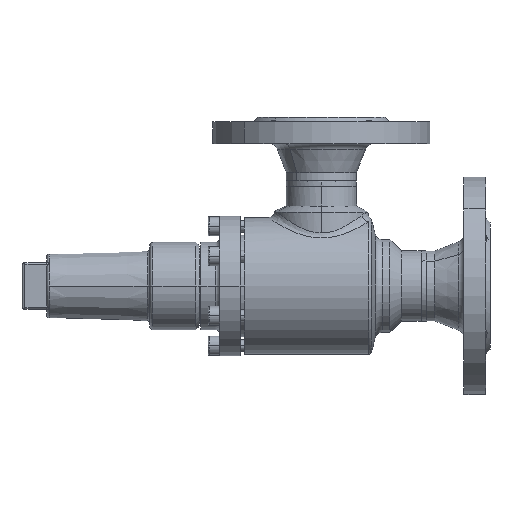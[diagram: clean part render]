
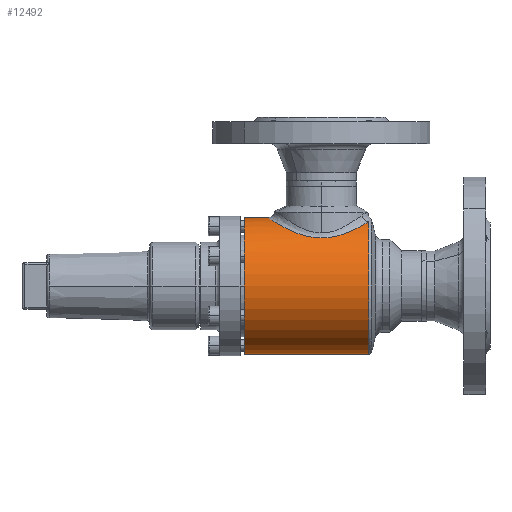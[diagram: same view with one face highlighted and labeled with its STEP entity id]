
A CAD part, left-side view. The second image highlights one B-rep face of the part: STEP entity #12492.
In plain terms, the highlighted cylindrical face has radius 47 mm (diameter 94 mm), a partial arc.
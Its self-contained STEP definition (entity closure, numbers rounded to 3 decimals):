
#16580 = EDGE_CURVE ( 'NONE', #18097, #5583, #12732, .T. ) ;
#536 = CARTESIAN_POINT ( 'NONE',  ( 0., -16., 47. ) ) ;
#774 = CARTESIAN_POINT ( 'NONE',  ( -16.073, -85.446, 44.166 ) ) ;
#1160 = CIRCLE ( 'NONE', #1161, 47. ) ;
#1161 = AXIS2_PLACEMENT_3D ( 'NONE', #1162, #1163, #1164 ) ;
#1162 = CARTESIAN_POINT ( 'NONE',  ( 0., -85.446, 0. ) ) ;
#1163 = DIRECTION ( 'NONE',  ( 0., 1., 0. ) ) ;
#1164 = DIRECTION ( 'NONE',  ( 0., 0., -1. ) ) ;
#17667 = EDGE_CURVE ( 'NONE', #18326, #18097, #13694, .T. ) ;
#1445 = ORIENTED_EDGE ( 'NONE', *, *, #18510, .T. ) ;
#17827 = ORIENTED_EDGE ( 'NONE', *, *, #17667, .T. ) ;
#18097 = VERTEX_POINT ( 'NONE', #536 ) ;
#18326 = VERTEX_POINT ( 'NONE', #774 ) ;
#1958 = ORIENTED_EDGE ( 'NONE', *, *, #7509, .F. ) ;
#18510 = EDGE_CURVE ( 'NONE', #10081, #18326, #1160, .T. ) ;
#18928 = FACE_OUTER_BOUND ( 'NONE', #4193, .T. ) ;
#18929 = CYLINDRICAL_SURFACE ( 'NONE', #18930, 47. ) ;
#18930 = AXIS2_PLACEMENT_3D ( 'NONE', #18931, #18932, #18933 ) ;
#18931 = CARTESIAN_POINT ( 'NONE',  ( 0., -91., 0. ) ) ;
#18932 = DIRECTION ( 'NONE',  ( 0., 1., 0. ) ) ;
#18933 = DIRECTION ( 'NONE',  ( 0., 0., 1. ) ) ;
#4193 = EDGE_LOOP ( 'NONE', ( #1958, #1445, #17827, #15776, #5512 ) ) ;
#5146 = EDGE_CURVE ( 'NONE', #7360, #5583, #10955, .T. ) ;
#5512 = ORIENTED_EDGE ( 'NONE', *, *, #5146, .F. ) ;
#5583 = VERTEX_POINT ( 'NONE', #11252 ) ;
#7360 = VERTEX_POINT ( 'NONE', #13027 ) ;
#7509 = EDGE_CURVE ( 'NONE', #10081, #7360, #13136, .T. ) ;
#10081 = VERTEX_POINT ( 'NONE', #15392 ) ;
#10955 = CIRCLE ( 'NONE', #10958, 47. ) ;
#10958 = AXIS2_PLACEMENT_3D ( 'NONE', #10959, #10960, #10961 ) ;
#10959 = CARTESIAN_POINT ( 'NONE',  ( 0., 0., 0. ) ) ;
#10960 = DIRECTION ( 'NONE',  ( 0., 1., 0. ) ) ;
#10961 = DIRECTION ( 'NONE',  ( 0., 0., 1. ) ) ;
#11252 = CARTESIAN_POINT ( 'NONE',  ( 0., 0., 47. ) ) ;
#12492 = ADVANCED_FACE ( 'NONE', ( #18928 ), #18929, .T. ) ;
#12732 = LINE ( 'NONE', #12733, #12734 ) ;
#12733 = CARTESIAN_POINT ( 'NONE',  ( 0., -91., 47. ) ) ;
#12734 = VECTOR ( 'NONE', #12735, 1000. ) ;
#12735 = DIRECTION ( 'NONE',  ( 0., 1., 0. ) ) ;
#13027 = CARTESIAN_POINT ( 'NONE',  ( 0., 0., -47. ) ) ;
#13136 = LINE ( 'NONE', #13137, #13138 ) ;
#13137 = CARTESIAN_POINT ( 'NONE',  ( 0., -91., -47. ) ) ;
#13138 = VECTOR ( 'NONE', #13139, 1000. ) ;
#13139 = DIRECTION ( 'NONE',  ( 0., 1., 0. ) ) ;
#13694 = B_SPLINE_CURVE_WITH_KNOTS ( 'NONE', 3,
 ( #13695, #13696, #13697, #13702, #13703, #13704, #13705, #13706, #13707, #13708, #13709, #13710, #13711, #13712, #13713, #13714, #13715, #13716, #13717, #13720, #13721, #13722, #13723, #13724, #13725, #13726, #13727, #13728, #13729, #13730, #13731, #13732, #13733, #13734, #13735, #13738, #13739, #13740, #13741, #13742, #13743, #13744, #13745, #13746, #13747, #13748, #13749, #13750, #13751, #13752, #13753, #13754, #13755, #13756, #13757, #13758, #13759, #13760, #13761, #13762, #13763, #13764 ),
 .UNSPECIFIED., .F., .F.,
 ( 4, 2, 2, 2, 2, 2, 2, 2, 2, 2, 2, 2, 2, 2, 2, 2, 2, 2, 2, 2, 2, 2, 2, 2, 2, 2, 2, 2, 2, 2, 4 ),
 ( 0.017, 0.023, 0.026, 0.029, 0.035, 0.039, 0.04, 0.042, 0.048, 0.051, 0.052, 0.054, 0.06, 0.063, 0.066, 0.069, 0.072, 0.078, 0.081, 0.083, 0.084, 0.09, 0.093, 0.095, 0.096, 0.103, 0.106, 0.107, 0.109, 0.112, 0.115 ),
 .UNSPECIFIED. ) ;
#13695 = CARTESIAN_POINT ( 'NONE',  ( -16.073, -85.446, 44.166 ) ) ;
#13696 = CARTESIAN_POINT ( 'NONE',  ( -17.749, -84.43, 43.556 ) ) ;
#13697 = CARTESIAN_POINT ( 'NONE',  ( -19.293, -83.29, 42.887 ) ) ;
#13702 = CARTESIAN_POINT ( 'NONE',  ( -21.444, -81.41, 41.831 ) ) ;
#13703 = CARTESIAN_POINT ( 'NONE',  ( -22.133, -80.755, 41.469 ) ) ;
#13704 = CARTESIAN_POINT ( 'NONE',  ( -23.459, -79.389, 40.734 ) ) ;
#13705 = CARTESIAN_POINT ( 'NONE',  ( -24.096, -78.676, 40.359 ) ) ;
#13706 = CARTESIAN_POINT ( 'NONE',  ( -25.907, -76.48, 39.24 ) ) ;
#13707 = CARTESIAN_POINT ( 'NONE',  ( -26.989, -74.936, 38.497 ) ) ;
#13708 = CARTESIAN_POINT ( 'NONE',  ( -28.44, -72.491, 37.424 ) ) ;
#13709 = CARTESIAN_POINT ( 'NONE',  ( -28.894, -71.655, 37.073 ) ) ;
#13710 = CARTESIAN_POINT ( 'NONE',  ( -29.533, -70.366, 36.563 ) ) ;
#13711 = CARTESIAN_POINT ( 'NONE',  ( -29.739, -69.93, 36.396 ) ) ;
#13712 = CARTESIAN_POINT ( 'NONE',  ( -30.137, -69.047, 36.067 ) ) ;
#13713 = CARTESIAN_POINT ( 'NONE',  ( -30.328, -68.599, 35.906 ) ) ;
#13714 = CARTESIAN_POINT ( 'NONE',  ( -31.243, -66.344, 35.126 ) ) ;
#13715 = CARTESIAN_POINT ( 'NONE',  ( -31.842, -64.482, 34.576 ) ) ;
#13716 = CARTESIAN_POINT ( 'NONE',  ( -32.541, -61.591, 33.914 ) ) ;
#13717 = CARTESIAN_POINT ( 'NONE',  ( -32.74, -60.61, 33.721 ) ) ;
#13720 = CARTESIAN_POINT ( 'NONE',  ( -32.986, -59.111, 33.48 ) ) ;
#13721 = CARTESIAN_POINT ( 'NONE',  ( -33.059, -58.608, 33.408 ) ) ;
#13722 = CARTESIAN_POINT ( 'NONE',  ( -33.186, -57.603, 33.282 ) ) ;
#13723 = CARTESIAN_POINT ( 'NONE',  ( -33.239, -57.1, 33.229 ) ) ;
#13724 = CARTESIAN_POINT ( 'NONE',  ( -33.462, -54.583, 33.006 ) ) ;
#13725 = CARTESIAN_POINT ( 'NONE',  ( -33.49, -52.562, 32.976 ) ) ;
#13726 = CARTESIAN_POINT ( 'NONE',  ( -33.307, -49.52, 33.161 ) ) ;
#13727 = CARTESIAN_POINT ( 'NONE',  ( -33.207, -48.498, 33.262 ) ) ;
#13728 = CARTESIAN_POINT ( 'NONE',  ( -32.933, -46.49, 33.532 ) ) ;
#13729 = CARTESIAN_POINT ( 'NONE',  ( -32.761, -45.501, 33.702 ) ) ;
#13730 = CARTESIAN_POINT ( 'NONE',  ( -32.346, -43.55, 34.1 ) ) ;
#13731 = CARTESIAN_POINT ( 'NONE',  ( -32.103, -42.587, 34.33 ) ) ;
#13732 = CARTESIAN_POINT ( 'NONE',  ( -31.549, -40.688, 34.839 ) ) ;
#13733 = CARTESIAN_POINT ( 'NONE',  ( -31.237, -39.749, 35.121 ) ) ;
#13734 = CARTESIAN_POINT ( 'NONE',  ( -30.211, -37.009, 36.016 ) ) ;
#13735 = CARTESIAN_POINT ( 'NONE',  ( -29.406, -35.272, 36.683 ) ) ;
#13738 = CARTESIAN_POINT ( 'NONE',  ( -28.021, -32.781, 37.738 ) ) ;
#13739 = CARTESIAN_POINT ( 'NONE',  ( -27.529, -31.97, 38.099 ) ) ;
#13740 = CARTESIAN_POINT ( 'NONE',  ( -26.744, -30.781, 38.65 ) ) ;
#13741 = CARTESIAN_POINT ( 'NONE',  ( -26.475, -30.389, 38.835 ) ) ;
#13742 = CARTESIAN_POINT ( 'NONE',  ( -25.92, -29.615, 39.208 ) ) ;
#13743 = CARTESIAN_POINT ( 'NONE',  ( -25.634, -29.233, 39.396 ) ) ;
#13744 = CARTESIAN_POINT ( 'NONE',  ( -24.175, -27.357, 40.33 ) ) ;
#13745 = CARTESIAN_POINT ( 'NONE',  ( -22.902, -25.964, 41.072 ) ) ;
#13746 = CARTESIAN_POINT ( 'NONE',  ( -20.822, -24.029, 42.143 ) ) ;
#13747 = CARTESIAN_POINT ( 'NONE',  ( -20.099, -23.411, 42.494 ) ) ;
#13748 = CARTESIAN_POINT ( 'NONE',  ( -18.969, -22.523, 43.004 ) ) ;
#13749 = CARTESIAN_POINT ( 'NONE',  ( -18.584, -22.235, 43.172 ) ) ;
#13750 = CARTESIAN_POINT ( 'NONE',  ( -17.798, -21.671, 43.502 ) ) ;
#13751 = CARTESIAN_POINT ( 'NONE',  ( -17.396, -21.396, 43.664 ) ) ;
#13752 = CARTESIAN_POINT ( 'NONE',  ( -15.356, -20.064, 44.455 ) ) ;
#13753 = CARTESIAN_POINT ( 'NONE',  ( -13.635, -19.147, 45.018 ) ) ;
#13754 = CARTESIAN_POINT ( 'NONE',  ( -10.906, -18.006, 45.727 ) ) ;
#13755 = CARTESIAN_POINT ( 'NONE',  ( -9.972, -17.666, 45.94 ) ) ;
#13756 = CARTESIAN_POINT ( 'NONE',  ( -8.53, -17.219, 46.222 ) ) ;
#13757 = CARTESIAN_POINT ( 'NONE',  ( -8.041, -17.081, 46.31 ) ) ;
#13758 = CARTESIAN_POINT ( 'NONE',  ( -7.058, -16.829, 46.47 ) ) ;
#13759 = CARTESIAN_POINT ( 'NONE',  ( -6.563, -16.715, 46.542 ) ) ;
#13760 = CARTESIAN_POINT ( 'NONE',  ( -5.066, -16.41, 46.737 ) ) ;
#13761 = CARTESIAN_POINT ( 'NONE',  ( -4.049, -16.255, 46.836 ) ) ;
#13762 = CARTESIAN_POINT ( 'NONE',  ( -2.024, -16.051, 46.967 ) ) ;
#13763 = CARTESIAN_POINT ( 'NONE',  ( -1.011, -16., 47. ) ) ;
#13764 = CARTESIAN_POINT ( 'NONE',  ( 0., -16., 47. ) ) ;
#15392 = CARTESIAN_POINT ( 'NONE',  ( 0., -85.446, -47. ) ) ;
#15776 = ORIENTED_EDGE ( 'NONE', *, *, #16580, .T. ) ;
